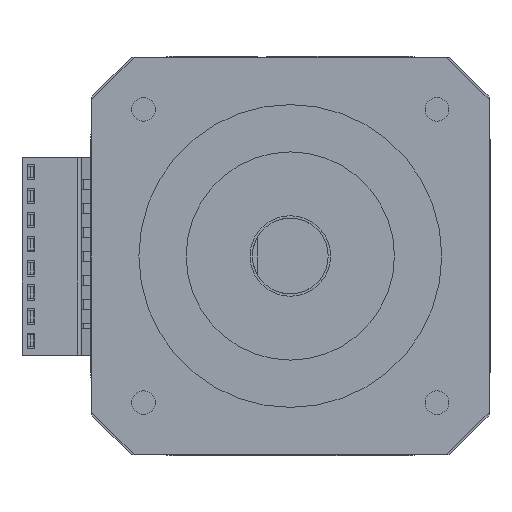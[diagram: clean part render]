
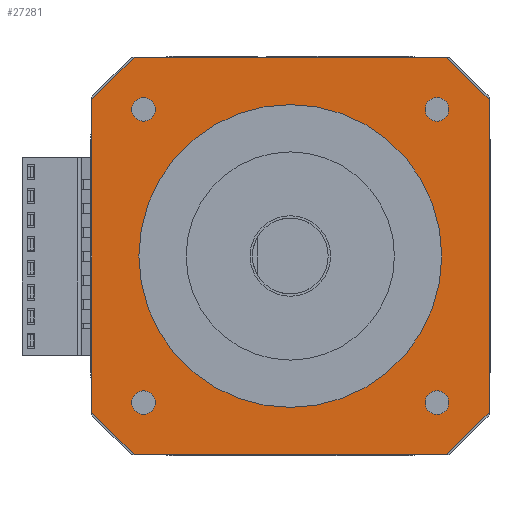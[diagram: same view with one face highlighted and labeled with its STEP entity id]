
A CAD part, front view. The second image highlights one B-rep face of the part: STEP entity #27281.
In plain terms, the highlighted planar face has unit normal (0, -1, 0).
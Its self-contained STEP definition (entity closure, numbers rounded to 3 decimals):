
#1528=DIRECTION('',(0.707,0.,-0.707));
#1529=VECTOR('',#1528,6.364);
#1530=CARTESIAN_POINT('',(37.5,31.,0.));
#1531=LINE('',#1530,#1529);
#1532=DIRECTION('',(0.,0.,-1.));
#1533=VECTOR('',#1532,33.);
#1534=CARTESIAN_POINT('',(42.,31.,-4.5));
#1535=LINE('',#1534,#1533);
#1536=DIRECTION('',(-0.707,0.,-0.707));
#1537=VECTOR('',#1536,6.364);
#1538=CARTESIAN_POINT('',(42.,31.,-37.5));
#1539=LINE('',#1538,#1537);
#1540=DIRECTION('',(-0.707,0.,0.707));
#1541=VECTOR('',#1540,6.364);
#1542=CARTESIAN_POINT('',(4.5,31.,-42.));
#1543=LINE('',#1542,#1541);
#1544=DIRECTION('',(0.707,0.,0.707));
#1545=VECTOR('',#1544,6.364);
#1546=CARTESIAN_POINT('',(0.,31.,-4.5));
#1547=LINE('',#1546,#1545);
#1548=CARTESIAN_POINT('',(5.5,31.,-36.5));
#1549=DIRECTION('',(0.,-1.,0.));
#1550=DIRECTION('',(-1.,0.,0.));
#1551=AXIS2_PLACEMENT_3D('',#1548,#1549,#1550);
#1553=CARTESIAN_POINT('',(5.5,31.,-36.5));
#1554=DIRECTION('',(0.,-1.,0.));
#1555=DIRECTION('',(1.,0.,0.));
#1556=AXIS2_PLACEMENT_3D('',#1553,#1554,#1555);
#1558=CARTESIAN_POINT('',(36.5,31.,-36.5));
#1559=DIRECTION('',(0.,-1.,0.));
#1560=DIRECTION('',(-1.,0.,0.));
#1561=AXIS2_PLACEMENT_3D('',#1558,#1559,#1560);
#1563=CARTESIAN_POINT('',(36.5,31.,-36.5));
#1564=DIRECTION('',(0.,-1.,0.));
#1565=DIRECTION('',(1.,0.,0.));
#1566=AXIS2_PLACEMENT_3D('',#1563,#1564,#1565);
#1568=CARTESIAN_POINT('',(5.5,31.,-5.5));
#1569=DIRECTION('',(0.,-1.,0.));
#1570=DIRECTION('',(-1.,0.,0.));
#1571=AXIS2_PLACEMENT_3D('',#1568,#1569,#1570);
#1573=CARTESIAN_POINT('',(5.5,31.,-5.5));
#1574=DIRECTION('',(0.,-1.,0.));
#1575=DIRECTION('',(1.,0.,0.));
#1576=AXIS2_PLACEMENT_3D('',#1573,#1574,#1575);
#1578=CARTESIAN_POINT('',(36.5,31.,-5.5));
#1579=DIRECTION('',(0.,-1.,0.));
#1580=DIRECTION('',(-1.,0.,0.));
#1581=AXIS2_PLACEMENT_3D('',#1578,#1579,#1580);
#1583=CARTESIAN_POINT('',(36.5,31.,-5.5));
#1584=DIRECTION('',(0.,-1.,0.));
#1585=DIRECTION('',(1.,0.,0.));
#1586=AXIS2_PLACEMENT_3D('',#1583,#1584,#1585);
#1588=CARTESIAN_POINT('',(21.,31.,-21.));
#1589=DIRECTION('',(0.,-1.,0.));
#1590=DIRECTION('',(-1.,0.,0.));
#1591=AXIS2_PLACEMENT_3D('',#1588,#1589,#1590);
#1593=CARTESIAN_POINT('',(21.,31.,-21.));
#1594=DIRECTION('',(0.,-1.,0.));
#1595=DIRECTION('',(1.,0.,0.));
#1596=AXIS2_PLACEMENT_3D('',#1593,#1594,#1595);
#1606=DIRECTION('',(-1.,0.,0.));
#1607=VECTOR('',#1606,33.);
#1608=CARTESIAN_POINT('',(37.5,31.,0.));
#1609=LINE('',#1608,#1607);
#7481=DIRECTION('',(0.,0.,-1.));
#7482=VECTOR('',#7481,33.);
#7483=CARTESIAN_POINT('',(0.,31.,-4.5));
#7484=LINE('',#7483,#7482);
#7501=DIRECTION('',(1.,0.,0.));
#7502=VECTOR('',#7501,33.);
#7503=CARTESIAN_POINT('',(4.5,31.,-42.));
#7504=LINE('',#7503,#7502);
#18523=CARTESIAN_POINT('',(42.,31.,-37.5));
#18525=VERTEX_POINT('',#18523);
#18531=CARTESIAN_POINT('',(42.,31.,-4.5));
#18532=VERTEX_POINT('',#18531);
#18533=CARTESIAN_POINT('',(37.5,31.,0.));
#18535=VERTEX_POINT('',#18533);
#18541=CARTESIAN_POINT('',(4.5,31.,0.));
#18542=VERTEX_POINT('',#18541);
#18545=CARTESIAN_POINT('',(0.,31.,-4.5));
#18546=VERTEX_POINT('',#18545);
#18553=CARTESIAN_POINT('',(0.,31.,-37.5));
#18554=VERTEX_POINT('',#18553);
#18557=CARTESIAN_POINT('',(4.5,31.,-42.));
#18558=VERTEX_POINT('',#18557);
#18565=CARTESIAN_POINT('',(37.5,31.,-42.));
#18566=VERTEX_POINT('',#18565);
#18567=CARTESIAN_POINT('',(6.75,31.,-36.5));
#18568=VERTEX_POINT('',#18567);
#18569=CARTESIAN_POINT('',(4.25,31.,-36.5));
#18570=VERTEX_POINT('',#18569);
#18571=CARTESIAN_POINT('',(37.75,31.,-36.5));
#18572=VERTEX_POINT('',#18571);
#18573=CARTESIAN_POINT('',(35.25,31.,-36.5));
#18574=VERTEX_POINT('',#18573);
#18575=CARTESIAN_POINT('',(6.75,31.,-5.5));
#18576=VERTEX_POINT('',#18575);
#18577=CARTESIAN_POINT('',(4.25,31.,-5.5));
#18578=VERTEX_POINT('',#18577);
#18579=CARTESIAN_POINT('',(37.75,31.,-5.5));
#18580=VERTEX_POINT('',#18579);
#18581=CARTESIAN_POINT('',(35.25,31.,-5.5));
#18582=VERTEX_POINT('',#18581);
#18584=CARTESIAN_POINT('',(37.,31.,-21.));
#18586=VERTEX_POINT('',#18584);
#18589=CARTESIAN_POINT('',(5.,31.,-21.));
#18590=VERTEX_POINT('',#18589);
#27230=CARTESIAN_POINT('',(21.,31.,-21.));
#27231=DIRECTION('',(0.,1.,0.));
#27232=DIRECTION('',(1.,0.,0.));
#27233=AXIS2_PLACEMENT_3D('',#27230,#27231,#27232);
#27234=PLANE('',#27233);
#27236=ORIENTED_EDGE('',*,*,#27235,.F.);
#27238=ORIENTED_EDGE('',*,*,#27237,.T.);
#27240=ORIENTED_EDGE('',*,*,#27239,.T.);
#27242=ORIENTED_EDGE('',*,*,#27241,.T.);
#27244=ORIENTED_EDGE('',*,*,#27243,.F.);
#27246=ORIENTED_EDGE('',*,*,#27245,.T.);
#27248=ORIENTED_EDGE('',*,*,#27247,.F.);
#27250=ORIENTED_EDGE('',*,*,#27249,.T.);
#27251=EDGE_LOOP('',(#27236,#27238,#27240,#27242,#27244,#27246,#27248,#27250));
#27252=FACE_OUTER_BOUND('',#27251,.F.);
#27254=ORIENTED_EDGE('',*,*,#27253,.T.);
#27256=ORIENTED_EDGE('',*,*,#27255,.T.);
#27257=EDGE_LOOP('',(#27254,#27256));
#27258=FACE_BOUND('',#27257,.F.);
#27260=ORIENTED_EDGE('',*,*,#27259,.T.);
#27262=ORIENTED_EDGE('',*,*,#27261,.T.);
#27263=EDGE_LOOP('',(#27260,#27262));
#27264=FACE_BOUND('',#27263,.F.);
#27266=ORIENTED_EDGE('',*,*,#27265,.T.);
#27268=ORIENTED_EDGE('',*,*,#27267,.T.);
#27269=EDGE_LOOP('',(#27266,#27268));
#27270=FACE_BOUND('',#27269,.F.);
#27272=ORIENTED_EDGE('',*,*,#27271,.T.);
#27274=ORIENTED_EDGE('',*,*,#27273,.T.);
#27275=EDGE_LOOP('',(#27272,#27274));
#27276=FACE_BOUND('',#27275,.F.);
#27277=ORIENTED_EDGE('',*,*,#27195,.T.);
#27278=ORIENTED_EDGE('',*,*,#27217,.T.);
#27279=EDGE_LOOP('',(#27277,#27278));
#27280=FACE_BOUND('',#27279,.F.);
#27281=ADVANCED_FACE('',(#27252,#27258,#27264,#27270,#27276,#27280),#27234,.F.);
#1552=CIRCLE('',#1551,1.25);
#1557=CIRCLE('',#1556,1.25);
#1562=CIRCLE('',#1561,1.25);
#1567=CIRCLE('',#1566,1.25);
#1572=CIRCLE('',#1571,1.25);
#1577=CIRCLE('',#1576,1.25);
#1582=CIRCLE('',#1581,1.25);
#1587=CIRCLE('',#1586,1.25);
#1592=CIRCLE('',#1591,16.);
#1597=CIRCLE('',#1596,16.);
#27195=EDGE_CURVE('',#18590,#18586,#1592,.T.);
#27217=EDGE_CURVE('',#18586,#18590,#1597,.T.);
#27235=EDGE_CURVE('',#18535,#18542,#1609,.T.);
#27237=EDGE_CURVE('',#18535,#18532,#1531,.T.);
#27239=EDGE_CURVE('',#18532,#18525,#1535,.T.);
#27241=EDGE_CURVE('',#18525,#18566,#1539,.T.);
#27243=EDGE_CURVE('',#18558,#18566,#7504,.T.);
#27245=EDGE_CURVE('',#18558,#18554,#1543,.T.);
#27247=EDGE_CURVE('',#18546,#18554,#7484,.T.);
#27249=EDGE_CURVE('',#18546,#18542,#1547,.T.);
#27253=EDGE_CURVE('',#18570,#18568,#1552,.T.);
#27255=EDGE_CURVE('',#18568,#18570,#1557,.T.);
#27259=EDGE_CURVE('',#18574,#18572,#1562,.T.);
#27261=EDGE_CURVE('',#18572,#18574,#1567,.T.);
#27265=EDGE_CURVE('',#18578,#18576,#1572,.T.);
#27267=EDGE_CURVE('',#18576,#18578,#1577,.T.);
#27271=EDGE_CURVE('',#18582,#18580,#1582,.T.);
#27273=EDGE_CURVE('',#18580,#18582,#1587,.T.);
